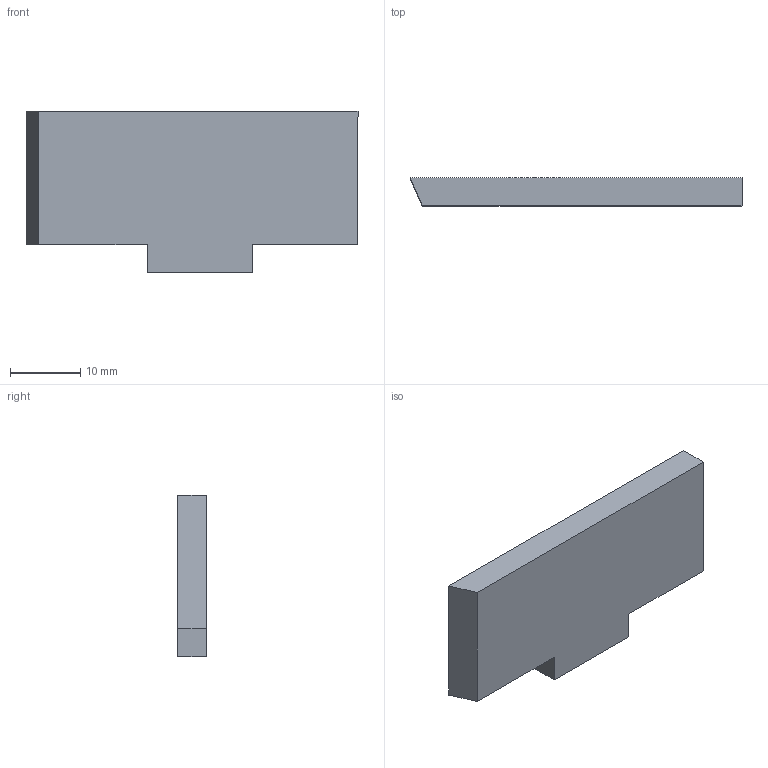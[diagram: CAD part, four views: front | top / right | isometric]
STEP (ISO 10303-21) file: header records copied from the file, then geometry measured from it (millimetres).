
FILE_DESCRIPTION(('STEP AP214'),'1');
FILE_NAME('tmp0.step','2025-05-02T09:08:12',(' '),(' '),'Spatial InterOp 3D',' ',' ');
FILE_SCHEMA(('AUTOMOTIVE_DESIGN { 1 0 10303 214 1 1 1 1 }'));
Length unit declared in the file: millimetre
Products named in the file (1): 1
Bounding box: 47.26 x 4 x 23 mm (x, y, z)
Volume: 3764.7 mm3; surface area: 2444.4 mm2
Topology: 1 solids, 1 shells, 10 faces, 24 edges, 16 vertices
Faces by surface type: plane 10
Entity records: 313 total; most frequent: CARTESIAN_POINT 51, ORIENTED_EDGE 48, DIRECTION 46, EDGE_CURVE 24, LINE 24, VECTOR 24, VERTEX_POINT 16, AXIS2_PLACEMENT_3D 11
